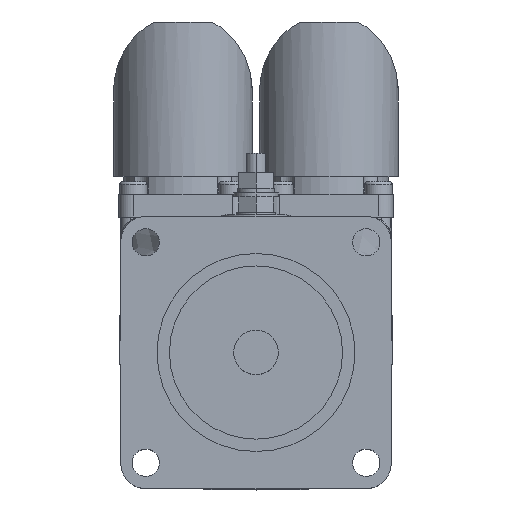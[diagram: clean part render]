
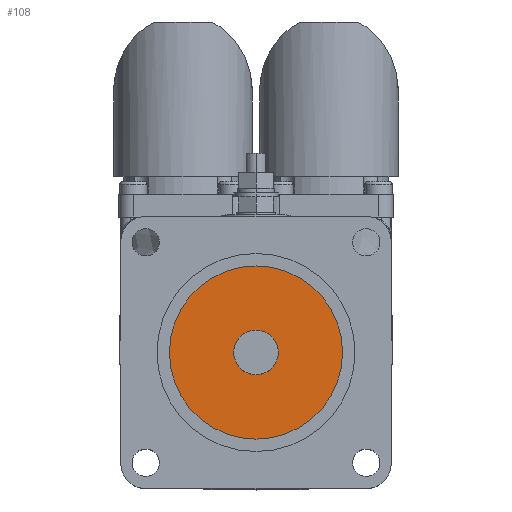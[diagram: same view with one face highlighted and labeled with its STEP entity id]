
A CAD part, top view. The second image highlights one B-rep face of the part: STEP entity #108.
In plain terms, the highlighted planar face has unit normal (0, 0, 1).
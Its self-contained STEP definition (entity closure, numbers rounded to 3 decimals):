
#108 = ADVANCED_FACE ( 'NONE', ( #1501, #1506 ), #11949, .T. ) ;
#1501 = FACE_OUTER_BOUND ( 'NONE', #9412, .T. ) ;
#1506 = FACE_BOUND ( 'NONE', #9419, .T. ) ;
#4092 = AXIS2_PLACEMENT_3D ( 'NONE', #8851, #8874, #8875 ) ;
#4097 = AXIS2_PLACEMENT_3D ( 'NONE', #8953, #8966, #8967 ) ;
#4100 = AXIS2_PLACEMENT_3D ( 'NONE', #8903, #8906, #8907 ) ;
#4109 = AXIS2_PLACEMENT_3D ( 'NONE', #8944, #8963, #8964 ) ;
#5670 = CIRCLE ( 'NONE', #4092, 4.5 ) ;
#5689 = CIRCLE ( 'NONE', #4100, 17.5 ) ;
#5725 = CIRCLE ( 'NONE', #4109, 17.5 ) ;
#5726 = CIRCLE ( 'NONE', #4097, 4.5 ) ;
#7860 = CARTESIAN_POINT ( 'NONE',  ( 4.5, 0., 84.5 ) ) ;
#7861 = CARTESIAN_POINT ( 'NONE',  ( -4.5, 0., 84.5 ) ) ;
#7866 = CARTESIAN_POINT ( 'NONE',  ( -17.5, 0., 84.5 ) ) ;
#7867 = CARTESIAN_POINT ( 'NONE',  ( 17.5, 0., 84.5 ) ) ;
#8851 = CARTESIAN_POINT ( 'NONE',  ( 0., 0., 84.5 ) ) ;
#8874 = DIRECTION ( 'NONE',  ( 0., 0., 1. ) ) ;
#8875 = DIRECTION ( 'NONE',  ( 1., 0., 0. ) ) ;
#8903 = CARTESIAN_POINT ( 'NONE',  ( 0., 0., 84.5 ) ) ;
#8906 = DIRECTION ( 'NONE',  ( 0., 0., 1. ) ) ;
#8907 = DIRECTION ( 'NONE',  ( 1., 0., 0. ) ) ;
#8944 = CARTESIAN_POINT ( 'NONE',  ( 0., 0., 84.5 ) ) ;
#8953 = CARTESIAN_POINT ( 'NONE',  ( 0., 0., 84.5 ) ) ;
#8963 = DIRECTION ( 'NONE',  ( 0., 0., 1. ) ) ;
#8964 = DIRECTION ( 'NONE',  ( 1., 0., 0. ) ) ;
#8966 = DIRECTION ( 'NONE',  ( 0., 0., 1. ) ) ;
#8967 = DIRECTION ( 'NONE',  ( 1., 0., 0. ) ) ;
#9412 = EDGE_LOOP ( 'NONE', ( #9535, #9536 ) ) ;
#9419 = EDGE_LOOP ( 'NONE', ( #9537, #9538 ) ) ;
#9535 = ORIENTED_EDGE ( 'NONE', *, *, #13759, .T. ) ;
#9536 = ORIENTED_EDGE ( 'NONE', *, *, #13735, .T. ) ;
#9537 = ORIENTED_EDGE ( 'NONE', *, *, #13760, .F. ) ;
#9538 = ORIENTED_EDGE ( 'NONE', *, *, #13721, .F. ) ;
#11480 = AXIS2_PLACEMENT_3D ( 'NONE', #11948, #11950, #11951 ) ;
#11948 = CARTESIAN_POINT ( 'NONE',  ( 0., 0., 84.5 ) ) ;
#11949 = PLANE ( 'NONE',  #11480 ) ;
#11950 = DIRECTION ( 'NONE',  ( 0., 0., 1. ) ) ;
#11951 = DIRECTION ( 'NONE',  ( 1., 0., 0. ) ) ;
#13013 = VERTEX_POINT ( 'NONE', #7860 ) ;
#13014 = VERTEX_POINT ( 'NONE', #7861 ) ;
#13019 = VERTEX_POINT ( 'NONE', #7866 ) ;
#13020 = VERTEX_POINT ( 'NONE', #7867 ) ;
#13721 = EDGE_CURVE ( 'NONE', #13013, #13014, #5670, .T. ) ;
#13735 = EDGE_CURVE ( 'NONE', #13019, #13020, #5689, .T. ) ;
#13759 = EDGE_CURVE ( 'NONE', #13020, #13019, #5725, .T. ) ;
#13760 = EDGE_CURVE ( 'NONE', #13014, #13013, #5726, .T. ) ;
